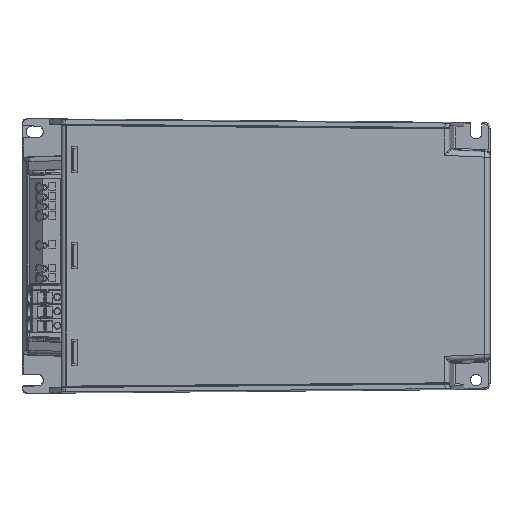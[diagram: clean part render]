
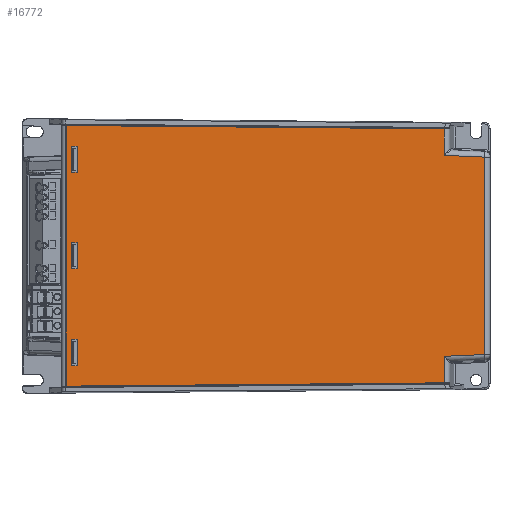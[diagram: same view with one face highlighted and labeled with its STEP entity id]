
A CAD part, top view. The second image highlights one B-rep face of the part: STEP entity #16772.
In plain terms, the highlighted planar face has unit normal (0.009, 0, 1).
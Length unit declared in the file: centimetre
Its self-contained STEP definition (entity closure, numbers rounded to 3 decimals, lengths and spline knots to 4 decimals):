
#303=FACE_BOUND('',#2745,.T.);
#304=FACE_BOUND('',#2746,.T.);
#305=FACE_BOUND('',#2747,.T.);
#306=FACE_BOUND('',#2748,.T.);
#2745=EDGE_LOOP('',(#12795,#12796,#12797,#12798));
#2746=EDGE_LOOP('',(#12799,#12800,#12801,#12802));
#2747=EDGE_LOOP('',(#12803,#12804,#12805,#12806));
#2748=EDGE_LOOP('',(#12807,#12808,#12809,#12810,#12811,#12812,#12813,#12814));
#3505=LINE('',#23457,#5371);
#3618=LINE('',#23762,#5484);
#3622=LINE('',#23771,#5488);
#4069=LINE('',#25249,#5935);
#4162=LINE('',#25826,#6028);
#4165=LINE('',#25832,#6031);
#4168=LINE('',#25838,#6034);
#4206=LINE('',#26146,#6072);
#4208=LINE('',#26153,#6074);
#4209=LINE('',#26155,#6075);
#4210=LINE('',#26158,#6076);
#4219=LINE('',#26181,#6085);
#4220=LINE('',#26182,#6086);
#4221=LINE('',#26184,#6087);
#4222=LINE('',#26185,#6088);
#4223=LINE('',#26187,#6089);
#4224=LINE('',#26188,#6090);
#4225=LINE('',#26190,#6091);
#4226=LINE('',#26192,#6092);
#4227=LINE('',#26193,#6093);
#5371=VECTOR('',#18951,0.95);
#5484=VECTOR('',#19110,0.2);
#5488=VECTOR('',#19116,0.2);
#5935=VECTOR('',#20021,0.9621);
#6028=VECTOR('',#20366,0.2);
#6031=VECTOR('',#20371,0.95);
#6034=VECTOR('',#20376,0.95);
#6072=VECTOR('',#20510,1.461);
#6074=VECTOR('',#20520,7.1535);
#6075=VECTOR('',#20523,1.461);
#6076=VECTOR('',#20526,0.9621);
#6085=VECTOR('',#20557,0.2);
#6086=VECTOR('',#20558,0.95);
#6087=VECTOR('',#20559,0.2);
#6088=VECTOR('',#20560,0.95);
#6089=VECTOR('',#20561,0.2);
#6090=VECTOR('',#20562,0.95);
#6091=VECTOR('',#20563,13.7032);
#6092=VECTOR('',#20564,9.4441);
#6093=VECTOR('',#20565,13.7032);
#7197=VERTEX_POINT('',#23454);
#7198=VERTEX_POINT('',#23456);
#7330=VERTEX_POINT('',#23759);
#7331=VERTEX_POINT('',#23761);
#7334=VERTEX_POINT('',#23768);
#7335=VERTEX_POINT('',#23770);
#7808=VERTEX_POINT('',#25142);
#7815=VERTEX_POINT('',#25247);
#7834=VERTEX_POINT('',#25366);
#7896=VERTEX_POINT('',#25825);
#7898=VERTEX_POINT('',#25831);
#7900=VERTEX_POINT('',#25837);
#7931=VERTEX_POINT('',#26138);
#7933=VERTEX_POINT('',#26149);
#7934=VERTEX_POINT('',#26157);
#7937=VERTEX_POINT('',#26180);
#7938=VERTEX_POINT('',#26183);
#7939=VERTEX_POINT('',#26186);
#7940=VERTEX_POINT('',#26189);
#7941=VERTEX_POINT('',#26191);
#8791=EDGE_CURVE('',#7198,#7197,#3505,.T.);
#8926=EDGE_CURVE('',#7331,#7330,#3618,.T.);
#8930=EDGE_CURVE('',#7335,#7334,#3622,.T.);
#9518=EDGE_CURVE('',#7815,#7808,#4069,.T.);
#9680=EDGE_CURVE('',#7896,#7198,#4162,.T.);
#9683=EDGE_CURVE('',#7898,#7335,#4165,.T.);
#9686=EDGE_CURVE('',#7900,#7331,#4168,.T.);
#9750=EDGE_CURVE('',#7808,#7931,#4206,.T.);
#9754=EDGE_CURVE('',#7931,#7933,#4208,.T.);
#9755=EDGE_CURVE('',#7933,#7834,#4209,.T.);
#9756=EDGE_CURVE('',#7834,#7934,#4210,.T.);
#9768=EDGE_CURVE('',#7197,#7937,#4219,.T.);
#9769=EDGE_CURVE('',#7937,#7896,#4220,.T.);
#9770=EDGE_CURVE('',#7938,#7898,#4221,.T.);
#9771=EDGE_CURVE('',#7334,#7938,#4222,.T.);
#9772=EDGE_CURVE('',#7939,#7900,#4223,.T.);
#9773=EDGE_CURVE('',#7330,#7939,#4224,.T.);
#9774=EDGE_CURVE('',#7815,#7940,#4225,.T.);
#9775=EDGE_CURVE('',#7940,#7941,#4226,.T.);
#9776=EDGE_CURVE('',#7941,#7934,#4227,.T.);
#12795=ORIENTED_EDGE('',*,*,#9680,.T.);
#12796=ORIENTED_EDGE('',*,*,#8791,.T.);
#12797=ORIENTED_EDGE('',*,*,#9768,.T.);
#12798=ORIENTED_EDGE('',*,*,#9769,.T.);
#12799=ORIENTED_EDGE('',*,*,#9770,.T.);
#12800=ORIENTED_EDGE('',*,*,#9683,.T.);
#12801=ORIENTED_EDGE('',*,*,#8930,.T.);
#12802=ORIENTED_EDGE('',*,*,#9771,.T.);
#12803=ORIENTED_EDGE('',*,*,#9772,.T.);
#12804=ORIENTED_EDGE('',*,*,#9686,.T.);
#12805=ORIENTED_EDGE('',*,*,#8926,.T.);
#12806=ORIENTED_EDGE('',*,*,#9773,.T.);
#12807=ORIENTED_EDGE('',*,*,#9518,.F.);
#12808=ORIENTED_EDGE('',*,*,#9774,.T.);
#12809=ORIENTED_EDGE('',*,*,#9775,.T.);
#12810=ORIENTED_EDGE('',*,*,#9776,.T.);
#12811=ORIENTED_EDGE('',*,*,#9756,.F.);
#12812=ORIENTED_EDGE('',*,*,#9755,.F.);
#12813=ORIENTED_EDGE('',*,*,#9754,.F.);
#12814=ORIENTED_EDGE('',*,*,#9750,.F.);
#16034=PLANE('',#17892);
#16772=ADVANCED_FACE('',(#303,#304,#305,#306),#16034,.T.);
#17892=AXIS2_PLACEMENT_3D('',#26179,#20555,#20556);
#18951=DIRECTION('',(0.,-1.,0.));
#19110=DIRECTION('',(1.,0.,-0.009));
#19116=DIRECTION('',(1.,0.,-0.009));
#20021=DIRECTION('',(0.,-1.,0.));
#20366=DIRECTION('',(1.,0.,-0.009));
#20371=DIRECTION('',(0.,1.,0.));
#20376=DIRECTION('',(0.,1.,0.));
#20510=DIRECTION('',(0.999,-0.044,-0.009));
#20520=DIRECTION('',(0.,-1.,0.));
#20523=DIRECTION('',(-0.999,-0.044,0.009));
#20526=DIRECTION('',(0.,-1.,0.));
#20555=DIRECTION('center_axis',(0.009,0.,
1.));
#20556=DIRECTION('ref_axis',(0.,-1.,0.));
#20557=DIRECTION('',(-1.,0.,0.009));
#20558=DIRECTION('',(0.,1.,0.));
#20559=DIRECTION('',(-1.,0.,0.009));
#20560=DIRECTION('',(0.,-1.,0.));
#20561=DIRECTION('',(-1.,0.,0.009));
#20562=DIRECTION('',(0.,-1.,0.));
#20563=DIRECTION('',(-1.,0.009,0.009));
#20564=DIRECTION('',(0.,-1.,0.));
#20565=DIRECTION('',(1.,0.009,-0.009));
#23454=CARTESIAN_POINT('',(1.69,-0.475,3.3065));
#23456=CARTESIAN_POINT('',(1.69,0.475,3.3065));
#23457=CARTESIAN_POINT('',(1.69,-0.2375,3.3065));
#23759=CARTESIAN_POINT('',(1.69,-3.025,3.3065));
#23761=CARTESIAN_POINT('',(1.49,-3.025,3.3083));
#23762=CARTESIAN_POINT('',(4.918,-3.025,3.2783));
#23768=CARTESIAN_POINT('',(1.69,3.975,3.3065));
#23770=CARTESIAN_POINT('',(1.49,3.975,3.3083));
#23771=CARTESIAN_POINT('',(4.918,3.975,3.2783));
#25142=CARTESIAN_POINT('',(14.9922,3.6404,3.1904));
#25247=CARTESIAN_POINT('',(14.9922,4.6025,3.1904));
#25249=CARTESIAN_POINT('',(14.9922,1.9,3.1904));
#25366=CARTESIAN_POINT('',(14.9922,-3.6404,3.1904));
#25825=CARTESIAN_POINT('',(1.49,0.475,3.3083));
#25826=CARTESIAN_POINT('',(4.918,0.475,3.2783));
#25831=CARTESIAN_POINT('',(1.49,3.025,3.3083));
#25832=CARTESIAN_POINT('',(1.49,1.9875,3.3083));
#25837=CARTESIAN_POINT('',(1.49,-3.975,3.3083));
#25838=CARTESIAN_POINT('',(1.49,-1.5125,3.3083));
#26138=CARTESIAN_POINT('',(16.4517,3.5768,3.1777));
#26146=CARTESIAN_POINT('',(12.4787,3.7499,3.2124));
#26149=CARTESIAN_POINT('',(16.4517,-3.5768,3.1777));
#26153=CARTESIAN_POINT('',(16.4517,-1.9,3.1777));
#26155=CARTESIAN_POINT('',(11.8294,-3.7782,3.218));
#26157=CARTESIAN_POINT('',(14.9922,-4.6025,3.1904));
#26158=CARTESIAN_POINT('',(14.9922,-2.49,3.1904));
#26179=CARTESIAN_POINT('Origin',(8.1128,0.,
3.2505));
#26180=CARTESIAN_POINT('',(1.49,-0.475,3.3083));
#26181=CARTESIAN_POINT('',(4.818,-0.475,3.2792));
#26182=CARTESIAN_POINT('',(1.49,0.2375,3.3083));
#26183=CARTESIAN_POINT('',(1.69,3.025,3.3065));
#26184=CARTESIAN_POINT('',(4.818,3.025,3.2792));
#26185=CARTESIAN_POINT('',(1.69,1.5125,3.3065));
#26186=CARTESIAN_POINT('',(1.69,-3.975,3.3065));
#26187=CARTESIAN_POINT('',(4.818,-3.975,3.2792));
#26188=CARTESIAN_POINT('',(1.69,-1.9875,3.3065));
#26189=CARTESIAN_POINT('',(1.29,4.722,3.31));
#26190=CARTESIAN_POINT('',(4.7217,4.6921,3.2801));
#26191=CARTESIAN_POINT('',(1.29,-4.722,3.31));
#26192=CARTESIAN_POINT('',(1.29,0.,3.31));
#26193=CARTESIAN_POINT('',(4.7217,-4.6921,3.2801));
